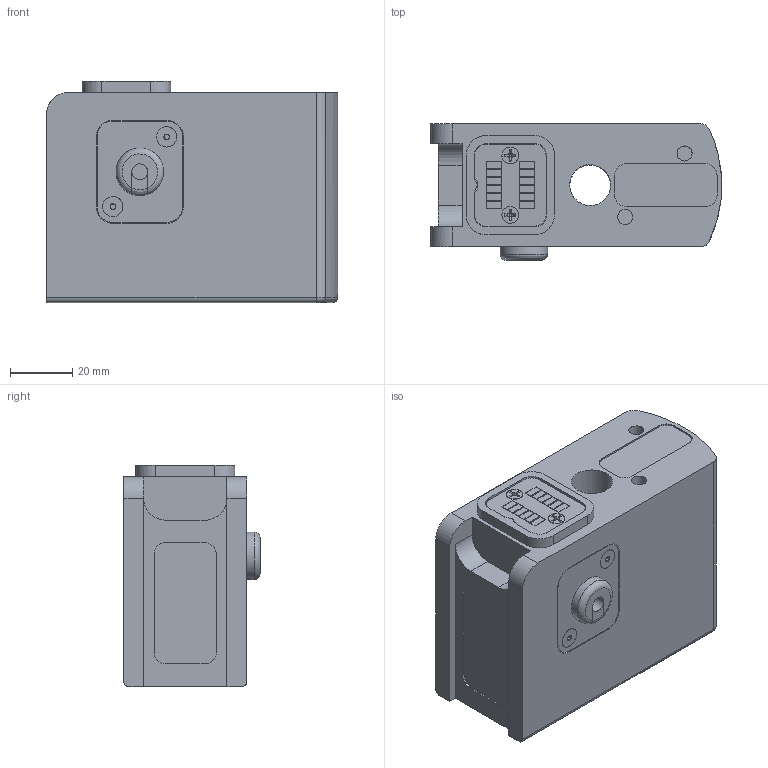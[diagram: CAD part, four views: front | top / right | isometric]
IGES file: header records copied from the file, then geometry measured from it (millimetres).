
Global section: file name: PTAF_ADAPTER; native system: Autodesk RealDWG; preprocessor: Autodesk Translation Framework DWG producer (atf_dwg_producer); organization: unknown; date: 20210208.151444; units: inch
Bounding box: 93.26 x 43.69 x 70.87 mm (x, y, z)
Volume: 228726 mm3; surface area: 29215.3 mm2
Topology: 1 solids, 1 shells, 251 faces, 637 edges, 419 vertices
Faces by surface type: bspline 251
